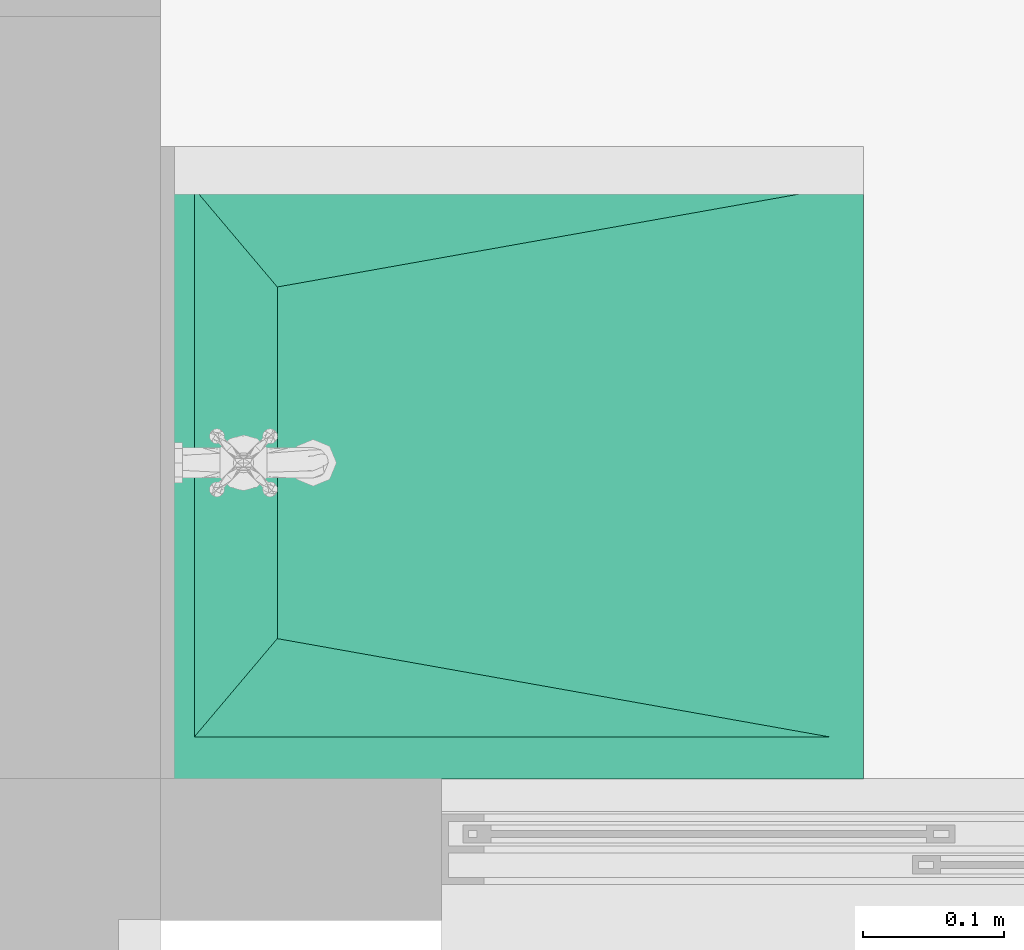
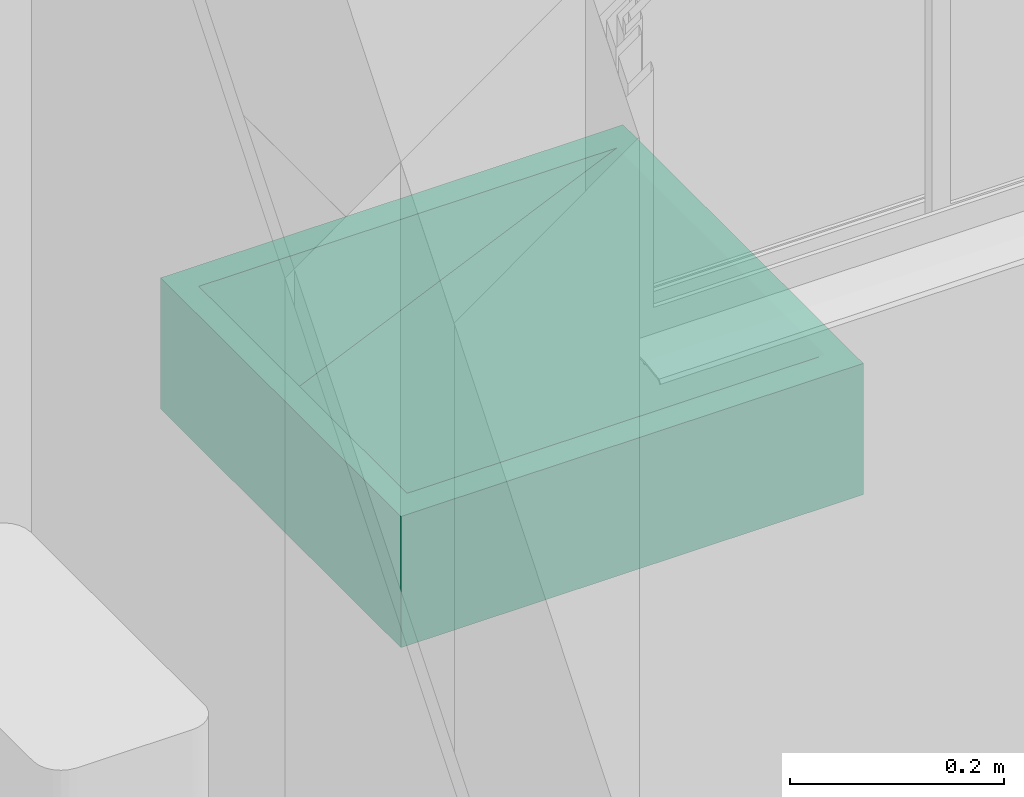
# One storey, part 39 of 48: 1 flow terminal.
"""IFC4 building model written with IfcOpenShell, lengths in metres."""

import ifcopenshell
import ifcopenshell.guid

model = None  # the IFC model being written
_history = None  # IfcOwnerHistory: only IFC2X3 demands one
_inside = {}  # id of a spatial element -> (the spatial element, [elements in it])
_under = {}  # id of a project, library or spatial element -> (it, [spatial elements below it])
_declared = {}  # id of a project -> (the project, [libraries it declares])
_typed = {}  # id of a type object -> (the type object, [elements of that type])
_made_of = {}  # id of a material, layer set ... -> (it, [elements and type objects made of it])


def new_model(schema):
    """Start an empty IFC model of exactly this schema.

    Asked for "IFC4X3", IfcOpenShell would pick the latest addendum, in which some entities
    have other attributes; the version numbers below select the first issue.
    IFC2X3 requires an IfcOwnerHistory on every rooted entity: one is made here for all.
    """
    global model, _history
    if schema == "IFC4X3":
        model = ifcopenshell.file(schema_version=(4, 3, 0, 0))
    else:
        model = ifcopenshell.file(schema=schema)
    _inside.clear()
    _under.clear()
    _declared.clear()
    _typed.clear()
    _made_of.clear()
    _history = None
    if model.schema == "IFC2X3":
        org = make("IfcOrganization", Name="unknown")
        user = make(
            "IfcPersonAndOrganization",
            ThePerson=make("IfcPerson", FamilyName="unknown"),
            TheOrganization=org,
        )
        app = make(
            "IfcApplication",
            ApplicationDeveloper=org,
            Version="unknown",
            ApplicationFullName="unknown",
            ApplicationIdentifier="unknown",
        )
        _history = make(
            "IfcOwnerHistory",
            OwningUser=user,
            OwningApplication=app,
            ChangeAction="ADDED",
            CreationDate=0,
        )
    return model


def make(cls, **values):
    """One entity of the class cls with the attributes given. An attribute that is None is left unset."""
    return model.create_entity(
        cls, **{name: value for name, value in values.items() if value is not None}
    )


def entity(cls, *values):
    """Any entity or typed value of the class cls, its attributes in the order of the schema. None: left unset."""
    e = model.create_entity(cls)
    for i, value in enumerate(values):
        if value is not None:
            e[i] = value
    return e


def rooted(cls, **values):
    """An entity with a GlobalId (a new one), such as an element, a storey or a relation."""
    return make(cls, GlobalId=ifcopenshell.guid.new(), OwnerHistory=_history, **values)


def si_unit(unit_type, name, prefix=None):
    """IfcSIUnit, for example si_unit("LENGTHUNIT", "METRE", prefix="MILLI")."""
    return make("IfcSIUnit", UnitType=unit_type, Prefix=prefix, Name=name)


def converted_unit(unit_type, name, factor, base, dimensions=None, offset=None):
    """IfcConversionBasedUnit, such as the inch: factor (a typed value) times the base unit."""
    return make(
        "IfcConversionBasedUnit"
        if offset is None
        else "IfcConversionBasedUnitWithOffset",
        ConversionOffset=offset,
        Dimensions=None
        if dimensions is None
        else entity("IfcDimensionalExponents", *dimensions),
        UnitType=unit_type,
        Name=name,
        ConversionFactor=make(
            "IfcMeasureWithUnit", ValueComponent=factor, UnitComponent=base
        ),
    )


def derived_unit(unit_type, elements):
    """IfcDerivedUnit: a product of units, each with its exponent."""
    return make(
        "IfcDerivedUnit",
        Elements=[
            make("IfcDerivedUnitElement", Unit=unit, Exponent=power)
            for unit, power in elements
        ],
        UnitType=unit_type,
    )


def assignment(units):
    """IfcUnitAssignment: the units of a project."""
    return None if units is None else make("IfcUnitAssignment", Units=units)


def point(xyz):
    """IfcCartesianPoint."""
    return None if xyz is None else make("IfcCartesianPoint", Coordinates=xyz)


def direction(xyz):
    """IfcDirection."""
    return None if xyz is None else make("IfcDirection", DirectionRatios=xyz)


def frame(location, z_axis=None, x_axis=None):
    """IfcAxis2Placement3D, a coordinate frame: its origin and axes. An axis left out is left unset."""
    return make(
        "IfcAxis2Placement3D",
        Location=point(location),
        Axis=direction(z_axis),
        RefDirection=direction(x_axis),
    )


def origin():
    """The frame at (0, 0, 0) with its axes left unset."""
    return frame((0.0, 0.0, 0.0))


def place(relative_to, where):
    """IfcLocalPlacement: puts the frame where relative to a parent placement (None: the world)."""
    return make(
        "IfcLocalPlacement", PlacementRelTo=relative_to, RelativePlacement=where
    )


def context(
    kind, dimensions, precision=None, world=None, true_north=None, identifier=None
):
    """IfcGeometricRepresentationContext, for example the 3D "Model" context."""
    return make(
        "IfcGeometricRepresentationContext",
        ContextIdentifier=identifier,
        ContextType=kind,
        CoordinateSpaceDimension=dimensions,
        Precision=precision,
        WorldCoordinateSystem=world,
        TrueNorth=true_north,
    )


def subcontext(parent, identifier, kind, view, scale=None):
    """IfcGeometricRepresentationSubContext, for example "Body" below "Model"."""
    return make(
        "IfcGeometricRepresentationSubContext",
        ContextIdentifier=identifier,
        ContextType=kind,
        ParentContext=parent,
        TargetScale=scale,
        TargetView=view,
    )


def project(units=None, contexts=None):
    """IfcProject with its units and contexts."""
    return rooted(
        "IfcProject",
        Name="project",
        RepresentationContexts=contexts,
        UnitsInContext=assignment(units),
    )


def spatial(cls, under=None, at=None, **own):
    """A site, building, storey or space (cls), placed at a placement, below another one or the project."""
    s = rooted(cls, ObjectPlacement=at, **own)
    if under is not None:
        _under.setdefault(under.id(), (under, []))[1].append(s)
    return s


def point_list(points):
    """IfcCartesianPointList2D or 3D."""
    cls = (
        "IfcCartesianPointList2D" if len(points[0]) == 2 else "IfcCartesianPointList3D"
    )
    return make(cls, CoordList=points)


def polygons(points, faces, closed=None, point_numbers=None):
    """IfcPolygonalFaceSet: a face is its outer loop, then its inner loops; points numbered from 1."""
    made = []
    for loops in faces:
        if len(loops) == 1:
            made.append(make("IfcIndexedPolygonalFace", CoordIndex=loops[0]))
        else:
            made.append(
                make(
                    "IfcIndexedPolygonalFaceWithVoids",
                    CoordIndex=loops[0],
                    InnerCoordIndices=loops[1:],
                )
            )
    return make(
        "IfcPolygonalFaceSet",
        Coordinates=point_list(points),
        Closed=closed,
        Faces=made,
        PnIndex=point_numbers,
    )


def shape(context_of_items, identifier, shape_type, items):
    """IfcShapeRepresentation: the items that make up one representation, for example the "Body"."""
    return make(
        "IfcShapeRepresentation",
        ContextOfItems=context_of_items,
        RepresentationIdentifier=identifier,
        RepresentationType=shape_type,
        Items=items,
    )


def source(mapping_origin, context_of_items, identifier, shape_type, items):
    """IfcRepresentationMap: a shape defined once, which mapped items show again and again."""
    return make(
        "IfcRepresentationMap",
        MappingOrigin=mapping_origin,
        MappedRepresentation=shape(context_of_items, identifier, shape_type, items),
    )


def transform(
    local_origin,
    x_axis=None,
    y_axis=None,
    z_axis=None,
    scale=None,
    scale2=None,
    scale3=None,
    uniform=True,
):
    """IfcCartesianTransformationOperator3D, or its non-uniform kind. x_axis, y_axis, z_axis: its Axis1, 2, 3."""
    if uniform:
        return make(
            "IfcCartesianTransformationOperator3D",
            Axis1=direction(x_axis),
            Axis2=direction(y_axis),
            LocalOrigin=point(local_origin),
            Scale=scale,
            Axis3=direction(z_axis),
        )
    return make(
        "IfcCartesianTransformationOperator3DnonUniform",
        Axis1=direction(x_axis),
        Axis2=direction(y_axis),
        LocalOrigin=point(local_origin),
        Scale=scale,
        Axis3=direction(z_axis),
        Scale2=scale2,
        Scale3=scale3,
    )


def mapped(mapping_source, mapping_target):
    """IfcMappedItem: shows the shape of a source again, moved by a transform."""
    return make(
        "IfcMappedItem", MappingSource=mapping_source, MappingTarget=mapping_target
    )


def material(Name=None, Category=None):
    """IfcMaterial."""
    return make("IfcMaterial", Name=Name, Category=Category)


def made_of(thing, what):
    """Note that an element or type object is made of a material, layer set ...; save() writes the relation."""
    if what is not None:
        _made_of.setdefault(what.id(), (what, []))[1].append(thing)
    return thing


def type_object(cls, material=None, **own):
    """A type object (cls), such as IfcWallType, which elements share."""
    return made_of(rooted(cls, **own), material)


def type_shapes(of_type, sources):
    """Give a type object the sources (RepresentationMaps) that its elements show as mapped items."""
    of_type.RepresentationMaps = sources


def element(
    cls,
    number,
    at=None,
    inside=None,
    cuts=None,
    type_object=None,
    material=None,
    context=None,
    identifier="Body",
    shape_type=None,
    held_by="IfcProductDefinitionShape",
    body=None,
    shapes=None,
    **own,
):
    """One element of the class cls, such as IfcWall. Its Tag is "e" and its number.

    at: its placement. inside: the storey or other place that contains it. cuts: it is an
    opening in that element (IfcRelVoidsElement). A single representation is given by context,
    identifier, shape_type and body (its items); several are given by shapes. held_by: the class
    of the entity that holds the representations. save() writes the other relations.
    """
    e = rooted(cls, Tag="e%d" % number, ObjectPlacement=at, **own)
    if body is not None:
        shapes = [shape(context, identifier, shape_type, body)]
    if shapes is not None:
        e.Representation = make(held_by, Representations=shapes)
    if inside is not None:
        _inside.setdefault(inside.id(), (inside, []))[1].append(e)
    if cuts is not None:
        rooted(
            "IfcRelVoidsElement", RelatingBuildingElement=cuts, RelatedOpeningElement=e
        )
    if type_object is not None:
        _typed.setdefault(type_object.id(), (type_object, []))[1].append(e)
    return made_of(e, material)


def aggregate(whole, parts):
    """IfcRelAggregates: a whole, such as a stair, and the parts it consists of."""
    return rooted("IfcRelAggregates", RelatingObject=whole, RelatedObjects=parts)


def save(model, path):
    """Write the relations noted so far, then the file.

    IfcRelAggregates (storeys below a building ...), IfcRelContainedInSpatialStructure (elements
    in a storey), IfcRelDefinesByType, IfcRelAssociatesMaterial and IfcRelDeclares: one each for
    every whole, place, type object, material and project.
    """
    for whole, parts in _under.values():
        aggregate(whole, parts)
    for where, things in _inside.values():
        rooted(
            "IfcRelContainedInSpatialStructure",
            RelatedElements=things,
            RelatingStructure=where,
        )
    for kind, things in _typed.values():
        rooted("IfcRelDefinesByType", RelatedObjects=things, RelatingType=kind)
    for what, things in _made_of.values():
        rooted("IfcRelAssociatesMaterial", RelatedObjects=things, RelatingMaterial=what)
    for by, libraries in _declared.values():
        rooted("IfcRelDeclares", RelatingContext=by, RelatedDefinitions=libraries)
    model.write(path)


model = new_model("IFC4")

# Units and contexts
model_context = context("Model", 3, precision=1e-05, world=origin(), true_north=direction((6.123031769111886e-17, 1.0)))
body_context = subcontext(model_context, "Body", "Model", "MODEL_VIEW")
ifc_project = project(units=[si_unit("LENGTHUNIT", "METRE"), si_unit("AREAUNIT", "SQUARE_METRE"), si_unit("VOLUMEUNIT", "CUBIC_METRE"), converted_unit("PLANEANGLEUNIT", "DEGREE", entity("IfcRatioMeasure", 0.017453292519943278), si_unit("PLANEANGLEUNIT", "RADIAN"), dimensions=[0, 0, 0, 0, 0, 0, 0]), si_unit("MASSUNIT", "GRAM", prefix="KILO"), derived_unit("MASSDENSITYUNIT", [(si_unit("MASSUNIT", "GRAM", prefix="KILO"), 1), (si_unit("LENGTHUNIT", "METRE"), -3)]), derived_unit("IONCONCENTRATIONUNIT", [(si_unit("MASSUNIT", "GRAM", prefix="KILO"), 1), (si_unit("LENGTHUNIT", "METRE"), -3)]), derived_unit("MOMENTOFINERTIAUNIT", [(si_unit("LENGTHUNIT", "METRE"), 4)]), si_unit("TIMEUNIT", "SECOND"), si_unit("FREQUENCYUNIT", "HERTZ"), si_unit("THERMODYNAMICTEMPERATUREUNIT", "DEGREE_CELSIUS"), derived_unit("THERMALTRANSMITTANCEUNIT", [(si_unit("MASSUNIT", "GRAM", prefix="KILO"), 1), (si_unit("THERMODYNAMICTEMPERATUREUNIT", "KELVIN"), -1), (si_unit("TIMEUNIT", "SECOND"), -3)]), derived_unit("THERMALCONDUCTANCEUNIT", [(si_unit("MASSUNIT", "GRAM", prefix="KILO"), 1), (si_unit("THERMODYNAMICTEMPERATUREUNIT", "KELVIN"), -1), (si_unit("TIMEUNIT", "SECOND"), -3), (si_unit("LENGTHUNIT", "METRE"), 1)]), derived_unit("VOLUMETRICFLOWRATEUNIT", [(si_unit("LENGTHUNIT", "METRE"), 3), (si_unit("TIMEUNIT", "SECOND"), -1)]), derived_unit("MASSFLOWRATEUNIT", [(si_unit("MASSUNIT", "GRAM", prefix="KILO"), 1), (si_unit("TIMEUNIT", "SECOND"), -1)]), derived_unit("ROTATIONALFREQUENCYUNIT", [(si_unit("TIMEUNIT", "SECOND"), -1)]), si_unit("ELECTRICCURRENTUNIT", "AMPERE"), si_unit("ELECTRICVOLTAGEUNIT", "VOLT"), si_unit("POWERUNIT", "WATT"), si_unit("FORCEUNIT", "NEWTON", prefix="KILO"), si_unit("ILLUMINANCEUNIT", "LUX"), si_unit("LUMINOUSFLUXUNIT", "LUMEN"), si_unit("LUMINOUSINTENSITYUNIT", "CANDELA"), derived_unit("USERDEFINED", [(si_unit("MASSUNIT", "GRAM", prefix="KILO"), -1), (si_unit("LENGTHUNIT", "METRE"), -2), (si_unit("TIMEUNIT", "SECOND"), 3), (si_unit("LUMINOUSFLUXUNIT", "LUMEN"), 1)]), derived_unit("USERDEFINED", [(si_unit("MASSUNIT", "GRAM", prefix="KILO"), 1), (si_unit("TIMEUNIT", "SECOND"), -3), (si_unit("LENGTHUNIT", "METRE"), 3), (si_unit("ELECTRICCURRENTUNIT", "AMPERE"), -2)]), derived_unit("SOUNDPOWERUNIT", [(si_unit("MASSUNIT", "GRAM", prefix="KILO"), 1), (si_unit("TIMEUNIT", "SECOND"), -3), (si_unit("LENGTHUNIT", "METRE"), 2)]), derived_unit("SOUNDPRESSUREUNIT", [(si_unit("MASSUNIT", "GRAM", prefix="KILO"), 1), (si_unit("LENGTHUNIT", "METRE"), -1), (si_unit("TIMEUNIT", "SECOND"), -2)]), derived_unit("LINEARVELOCITYUNIT", [(si_unit("LENGTHUNIT", "METRE"), 1), (si_unit("TIMEUNIT", "SECOND"), -1)]), si_unit("PRESSUREUNIT", "PASCAL"), derived_unit("USERDEFINED", [(si_unit("MASSUNIT", "GRAM", prefix="KILO"), 1), (si_unit("LENGTHUNIT", "METRE"), -2), (si_unit("TIMEUNIT", "SECOND"), -2)]), derived_unit("LINEARFORCEUNIT", [(si_unit("MASSUNIT", "GRAM", prefix="KILO"), 1), (si_unit("TIMEUNIT", "SECOND"), -2)]), derived_unit("PLANARFORCEUNIT", [(si_unit("MASSUNIT", "GRAM", prefix="KILO"), 1), (si_unit("LENGTHUNIT", "METRE"), -1), (si_unit("TIMEUNIT", "SECOND"), -2)]), derived_unit("SPECIFICHEATCAPACITYUNIT", [(si_unit("THERMODYNAMICTEMPERATUREUNIT", "KELVIN"), -1), (si_unit("LENGTHUNIT", "METRE"), 2), (si_unit("TIMEUNIT", "SECOND"), -2)]), derived_unit("HEATINGVALUEUNIT", [(si_unit("LENGTHUNIT", "METRE"), 2), (si_unit("TIMEUNIT", "SECOND"), -2)]), derived_unit("VAPORPERMEABILITYUNIT", [(si_unit("LENGTHUNIT", "METRE"), -1), (si_unit("TIMEUNIT", "SECOND"), 1)]), derived_unit("DYNAMICVISCOSITYUNIT", [(si_unit("MASSUNIT", "GRAM", prefix="KILO"), 1), (si_unit("TIMEUNIT", "SECOND"), -1), (si_unit("LENGTHUNIT", "METRE"), -1)]), derived_unit("THERMALEXPANSIONCOEFFICIENTUNIT", [(si_unit("THERMODYNAMICTEMPERATUREUNIT", "KELVIN"), -1)]), derived_unit("MODULUSOFELASTICITYUNIT", [(si_unit("MASSUNIT", "GRAM", prefix="KILO"), 1), (si_unit("LENGTHUNIT", "METRE"), -1), (si_unit("TIMEUNIT", "SECOND"), -2)]), derived_unit("ISOTHERMALMOISTURECAPACITYUNIT", [(si_unit("LENGTHUNIT", "METRE"), 3), (si_unit("MASSUNIT", "GRAM", prefix="KILO"), -1)]), derived_unit("MOISTUREDIFFUSIVITYUNIT", [(si_unit("TIMEUNIT", "SECOND"), -1), (si_unit("LENGTHUNIT", "METRE"), 2)])], contexts=[model_context])

# Site, building, storey, space
site_placement = place(None, origin())
site = spatial("IfcSite", under=ifc_project, at=site_placement, Name="Default", CompositionType="ELEMENT")
building_placement = place(site_placement, origin())
building = spatial("IfcBuilding", under=site, at=building_placement, CompositionType="ELEMENT")
storey_placement = place(building_placement, frame((0.0, 0.0, 4.700000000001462)))
storey = spatial("IfcBuildingStorey", under=building, at=storey_placement, Name="Nivel 3", CompositionType="ELEMENT", Elevation=4.700000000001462)
space_placement = place(storey_placement, origin())
space = spatial("IfcSpace", under=storey, at=space_placement, Name="146", CompositionType="ELEMENT", PredefinedType="SPACE")

# Flow terminal
ifc_material = material(Name="Lavadero", Category="Materials")
distribution_element_type = type_object("IfcDistributionElementType", Name="D2010 - Lavadero - Granito:D2010 - Lavadero - Concreto", material=ifc_material)
shared_shape = source(origin(), body_context, "Body", "Tessellation", [
    polygons([(0.03000000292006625, 0.47600086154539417, 0.15000000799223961), (0.02999997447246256, 0.024000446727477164, 0.15000000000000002), (0.09992663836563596, 0.08303011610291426, 0.05000015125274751), (0.4199999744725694, 0.024000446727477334, 0.15000000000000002), (0.3500731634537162, 0.08303019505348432, 0.050000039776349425), (0.4199999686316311, 0.4760007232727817, 0.15000001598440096), (0.4499999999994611, 0.5000004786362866, 0.0), (0.4499999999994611, 0.5000004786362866, 0.15000000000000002), (0.4499999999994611, 3.383959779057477e-17, 0.15000000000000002), (0.4499999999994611, 3.383959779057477e-17, 0.0), (6.767919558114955e-17, 0.5000004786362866, 0.0), (6.767919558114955e-17, 0.5000004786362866, 0.15000000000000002), (6.767919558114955e-17, 3.383959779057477e-17, 0.0), (6.767919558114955e-17, 3.383959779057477e-17, 0.15000000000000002), (0.4199999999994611, 0.4800004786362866, 0.0), (0.030000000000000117, 0.4800004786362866, 0.0), (0.030000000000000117, 0.019999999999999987, 0.0), (0.4199999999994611, 0.019999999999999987, 0.0), (0.4199999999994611, 0.4800004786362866, 0.034883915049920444), (0.4199999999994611, 0.019999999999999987, 0.034883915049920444), (0.030000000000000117, 0.4800004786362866, 0.034883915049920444), (0.030000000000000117, 0.019999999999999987, 0.034883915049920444)], [[[1, 2, 3]], [[2, 4, 5, 3]], [[4, 6, 5]], [[3, 5, 6, 1]], [[7, 8, 9, 10]], [[7, 11, 12, 8]], [[11, 13, 14, 12]], [[9, 14, 13, 10]], [[10, 13, 11, 7], [15, 16, 17, 18]], [[8, 12, 14, 9], [1, 6, 4, 2]], [[19, 15, 18, 20]], [[21, 16, 15, 19]], [[22, 17, 16, 21]], [[20, 18, 17, 22]], [[20, 22, 21, 19]]], closed=True),
])
type_shapes(distribution_element_type, [shared_shape])
flow_terminal_placement = place(space_placement, frame((4.08749999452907, -4.675000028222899, 0.7799999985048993), z_axis=(0.0, 0.0, 1.0), x_axis=(0.0, -1.0, 0.0)))
element("IfcFlowTerminal", 1, at=flow_terminal_placement, inside=space, type_object=distribution_element_type, material=ifc_material, Name="D2010 - Lavadero - Granito:D2010 - Lavadero - Concreto", ObjectType="D2010 - Lavadero - Granito:D2010 - Lavadero - Concreto", context=body_context, shape_type="MappedRepresentation", body=[
    mapped(shared_shape, transform((0.0, 0.0, 0.0), scale=1.0)),
])

save(model, "model.ifc")
